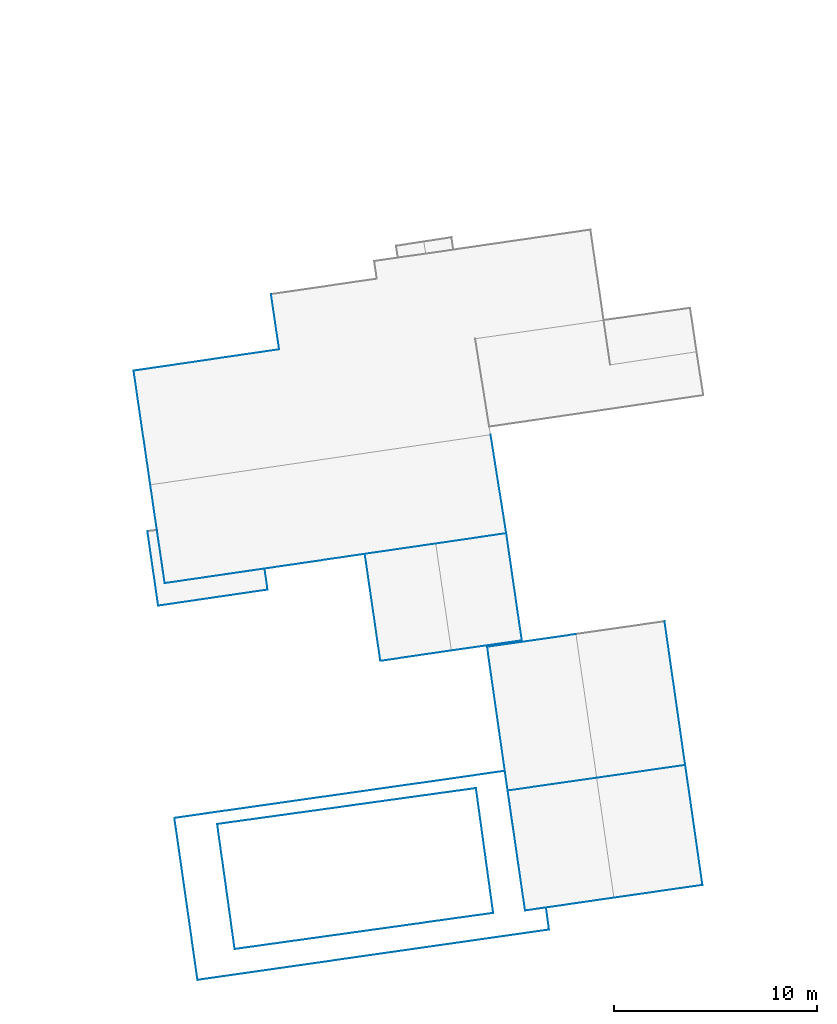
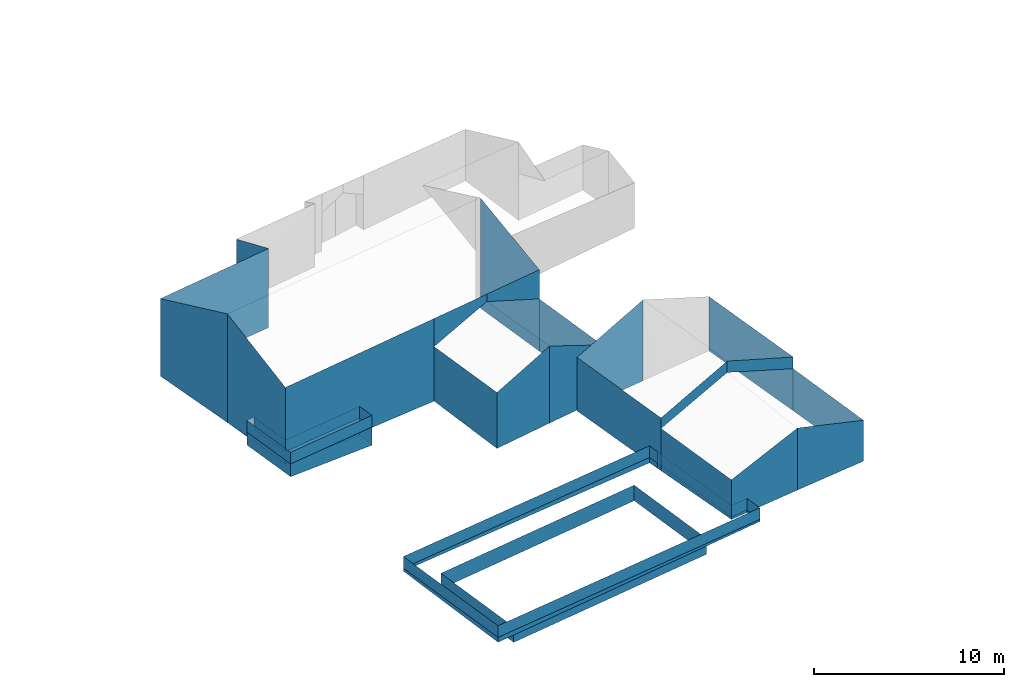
# Not in any storey, part 1 of 59: 58 walls.
"""IFC4 building model written with IfcOpenShell, lengths in metres."""

from ifc_helpers import new_model, entity, si_unit, converted_unit, origin, place, context, subcontext, project, spatial, face_set, surface_model, element, save


model = new_model("IFC4")

# Units and contexts
model_context = context("Model", 3, precision=1e-05, world=origin())
body_context = subcontext(model_context, "Body", "Model", "MODEL_VIEW")
ifc_project = project(units=[converted_unit("PLANEANGLEUNIT", "DEGREE", entity("IfcRatioMeasure", 0.0174532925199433), si_unit("PLANEANGLEUNIT", "RADIAN"), dimensions=[0, 0, 0, 0, 0, 0, 0]), si_unit("AREAUNIT", "SQUARE_METRE"), si_unit("LENGTHUNIT", "METRE")], contexts=[model_context])

# Site, building
site_placement = place(None, origin())
site = spatial("IfcSite", under=ifc_project, at=site_placement, Name="_site")
building_1_placement = place(site_placement, origin())
building_1 = spatial("IfcBuilding", under=site, at=building_1_placement, Name="_building")

# Walls
wall_1_placement = place(building_1_placement, origin())
element("IfcWall", 1, at=wall_1_placement, inside=building_1, Name="Wall", PredefinedType="NOTDEFINED", context=body_context, shape_type="SurfaceModel", body=[
    surface_model("IfcFaceBasedSurfaceModel", [(94.31, 30.33, 224.31), (90.83, 29.82, 224.275), (90.83, 29.82, 223.79), (94.31, 30.33, 222.44)], [face_set([[[0, 1, 2, 3]]])]),
])
wall_2_placement = place(building_1_placement, origin())
element("IfcWall", 2, at=wall_2_placement, inside=building_1, Name="Wall", PredefinedType="NOTDEFINED", context=body_context, shape_type="SurfaceModel", body=[
    surface_model("IfcFaceBasedSurfaceModel", [(90.83, 29.82, 224.275), (87.34, 29.311, 224.24), (87.34, 29.311, 222.44), (90.83, 29.82, 223.79)], [face_set([[[0, 1, 2, 3]]])]),
])
wall_3_placement = place(building_1_placement, origin())
element("IfcWall", 3, at=wall_3_placement, inside=building_1, Name="Wall", PredefinedType="NOTDEFINED", context=body_context, shape_type="SurfaceModel", body=[
    surface_model("IfcFaceBasedSurfaceModel", [(77.48, 27.869, 224.14), (76.77, 32.721, 226.17), (76.77, 32.721, 219.19), (77.48, 27.869, 219.2)], [face_set([[[0, 1, 2, 3]]])]),
])
wall_4_placement = place(building_1_placement, origin())
element("IfcWall", 4, at=wall_4_placement, inside=building_1, Name="Wall", PredefinedType="NOTDEFINED", context=body_context, shape_type="SurfaceModel", body=[
    surface_model("IfcFaceBasedSurfaceModel", [(93.54, 35.189, 226.25), (94.31, 30.33, 224.31), (94.31, 30.33, 219.084), (93.54, 35.189, 219.165)], [face_set([[[0, 1, 2, 3]]])]),
])
wall_5_placement = place(building_1_placement, origin())
element("IfcWall", 5, at=wall_5_placement, inside=building_1, Name="Wall", PredefinedType="NOTDEFINED", context=body_context, shape_type="SurfaceModel", body=[
    surface_model("IfcFaceBasedSurfaceModel", [(76.77, 32.721, 226.17), (75.95, 38.34, 224.03), (75.95, 38.34, 219.047), (76.77, 32.721, 219.19)], [face_set([[[0, 1, 2, 3]]])]),
])
wall_6_placement = place(building_1_placement, origin())
element("IfcWall", 6, at=wall_6_placement, inside=building_1, Name="Wall", PredefinedType="NOTDEFINED", context=body_context, shape_type="SurfaceModel", body=[
    surface_model("IfcFaceBasedSurfaceModel", [(87.34, 29.311, 224.24), (77.48, 27.869, 224.14), (77.48, 27.869, 219.2), (87.34, 29.311, 218.94)], [face_set([[[0, 1, 2, 3]]])]),
])
wall_7_placement = place(building_1_placement, origin())
element("IfcWall", 7, at=wall_7_placement, inside=building_1, Name="Wall", PredefinedType="NOTDEFINED", context=body_context, shape_type="SurfaceModel", body=[
    surface_model("IfcFaceBasedSurfaceModel", [(83.12, 39.391, 224.1), (82.72, 42.109, 223.19), (82.72, 42.109, 219.032), (83.12, 39.391, 219.017)], [face_set([[[0, 1, 2, 3]]])]),
])
wall_8_placement = place(building_1_placement, origin())
element("IfcWall", 8, at=wall_8_placement, inside=building_1, Name="Wall", PredefinedType="NOTDEFINED", context=body_context, shape_type="SurfaceModel", body=[
    surface_model("IfcFaceBasedSurfaceModel", [(75.95, 38.34, 224.03), (83.12, 39.391, 224.1), (83.12, 39.391, 219.017), (75.95, 38.34, 219.047)], [face_set([[[0, 1, 2, 3]]])]),
])
wall_9_placement = place(building_1_placement, origin())
element("IfcWall", 9, at=wall_9_placement, inside=building_1, Name="Wall", PredefinedType="NOTDEFINED", context=body_context, shape_type="SurfaceModel", body=[
    surface_model("IfcFaceBasedSurfaceModel", [(95.08, 25.051, 222.42), (91.6, 24.551, 223.87), (91.6, 24.551, 218.924), (95.08, 25.051, 219.0)], [face_set([[[0, 1, 2, 3]]])]),
])
wall_10_placement = place(building_1_placement, origin())
element("IfcWall", 10, at=wall_10_placement, inside=building_1, Name="Wall", PredefinedType="NOTDEFINED", context=body_context, shape_type="SurfaceModel", body=[
    surface_model("IfcFaceBasedSurfaceModel", [(91.6, 24.551, 223.87), (88.11, 24.039, 222.42), (88.11, 24.039, 218.826), (91.6, 24.551, 218.924)], [face_set([[[0, 1, 2, 3]]])]),
])
wall_11_placement = place(building_1_placement, origin())
element("IfcWall", 11, at=wall_11_placement, inside=building_1, Name="Wall", PredefinedType="NOTDEFINED", context=body_context, shape_type="SurfaceModel", body=[
    surface_model("IfcFaceBasedSurfaceModel", [(94.31, 30.33, 222.44), (95.08, 25.051, 222.42), (95.08, 25.051, 219.0), (94.31, 30.33, 219.084)], [face_set([[[0, 1, 2, 3]]])]),
])
wall_12_placement = place(building_1_placement, origin())
element("IfcWall", 12, at=wall_12_placement, inside=building_1, Name="Wall", PredefinedType="NOTDEFINED", context=body_context, shape_type="SurfaceModel", body=[
    surface_model("IfcFaceBasedSurfaceModel", [(88.11, 24.039, 222.42), (87.34, 29.311, 222.44), (87.34, 29.311, 218.94), (88.11, 24.039, 218.826)], [face_set([[[0, 1, 2, 3]]])]),
])
wall_13_placement = place(building_1_placement, origin())
element("IfcWall", 13, at=wall_13_placement, inside=building_1, Name="Wall", PredefinedType="NOTDEFINED", context=body_context, shape_type="SurfaceModel", body=[
    surface_model("IfcFaceBasedSurfaceModel", [(77.48, 27.869, 220.02), (82.4, 28.59, 220.02), (82.4, 28.59, 220.77), (77.48, 27.869, 220.77)], [face_set([[[0, 1, 2, 3]]])]),
])
wall_14_placement = place(building_1_placement, origin())
element("IfcWall", 14, at=wall_14_placement, inside=building_1, Name="Wall", PredefinedType="NOTDEFINED", context=body_context, shape_type="SurfaceModel", body=[
    surface_model("IfcFaceBasedSurfaceModel", [(77.1, 30.49, 220.02), (77.48, 27.869, 220.02), (77.48, 27.869, 220.77), (77.1, 30.49, 220.77)], [face_set([[[0, 1, 2, 3]]])]),
])
wall_15_placement = place(building_1_placement, origin())
element("IfcWall", 15, at=wall_15_placement, inside=building_1, Name="Wall", PredefinedType="NOTDEFINED", context=body_context, shape_type="SurfaceModel", body=[
    surface_model("IfcFaceBasedSurfaceModel", [(77.16, 26.76, 220.02), (76.63, 30.43, 220.02), (76.63, 30.43, 220.77), (77.16, 26.76, 220.77)], [face_set([[[0, 1, 2, 3]]])]),
])
wall_16_placement = place(building_1_placement, origin())
element("IfcWall", 16, at=wall_16_placement, inside=building_1, Name="Wall", PredefinedType="NOTDEFINED", context=body_context, shape_type="SurfaceModel", body=[
    surface_model("IfcFaceBasedSurfaceModel", [(82.55, 27.551, 220.02), (77.16, 26.76, 220.02), (77.16, 26.76, 220.77), (82.55, 27.551, 220.77)], [face_set([[[0, 1, 2, 3]]])]),
])
wall_17_placement = place(building_1_placement, origin())
element("IfcWall", 17, at=wall_17_placement, inside=building_1, Name="Wall", PredefinedType="NOTDEFINED", context=body_context, shape_type="SurfaceModel", body=[
    surface_model("IfcFaceBasedSurfaceModel", [(82.4, 28.59, 220.02), (82.55, 27.551, 220.02), (82.55, 27.551, 220.77), (82.4, 28.59, 220.77)], [face_set([[[0, 1, 2, 3]]])]),
])
wall_18_placement = place(building_1_placement, origin())
element("IfcWall", 18, at=wall_18_placement, inside=building_1, Name="Wall", PredefinedType="NOTDEFINED", context=body_context, shape_type="SurfaceModel", body=[
    surface_model("IfcFaceBasedSurfaceModel", [(77.48, 27.869, 220.02), (82.4, 28.59, 220.02), (82.4, 28.59, 220.77), (77.48, 27.869, 220.77)], [face_set([[[0, 1, 2, 3]]])]),
])
wall_19_placement = place(building_1_placement, origin())
element("IfcWall", 19, at=wall_19_placement, inside=building_1, Name="Wall", PredefinedType="NOTDEFINED", context=body_context, shape_type="SurfaceModel", body=[
    surface_model("IfcFaceBasedSurfaceModel", [(77.1, 30.49, 220.02), (77.48, 27.869, 220.02), (77.48, 27.869, 220.77), (77.1, 30.49, 220.77)], [face_set([[[0, 1, 2, 3]]])]),
])
wall_20_placement = place(building_1_placement, origin())
element("IfcWall", 20, at=wall_20_placement, inside=building_1, Name="Wall", PredefinedType="NOTDEFINED", context=body_context, shape_type="SurfaceModel", body=[
    surface_model("IfcFaceBasedSurfaceModel", [(77.16, 26.76, 220.02), (76.63, 30.43, 220.02), (76.63, 30.43, 220.77), (77.16, 26.76, 220.77)], [face_set([[[0, 1, 2, 3]]])]),
])
wall_21_placement = place(building_1_placement, origin())
element("IfcWall", 21, at=wall_21_placement, inside=building_1, Name="Wall", PredefinedType="NOTDEFINED", context=body_context, shape_type="SurfaceModel", body=[
    surface_model("IfcFaceBasedSurfaceModel", [(82.55, 27.551, 220.02), (77.16, 26.76, 220.02), (77.16, 26.76, 220.77), (82.55, 27.551, 220.77)], [face_set([[[0, 1, 2, 3]]])]),
])
wall_22_placement = place(building_1_placement, origin())
element("IfcWall", 22, at=wall_22_placement, inside=building_1, Name="Wall", PredefinedType="NOTDEFINED", context=body_context, shape_type="SurfaceModel", body=[
    surface_model("IfcFaceBasedSurfaceModel", [(82.4, 28.59, 220.02), (82.55, 27.551, 220.02), (82.55, 27.551, 220.77), (82.4, 28.59, 220.77)], [face_set([[[0, 1, 2, 3]]])]),
])
wall_23_placement = place(building_1_placement, origin())
element("IfcWall", 23, at=wall_23_placement, inside=building_1, Name="Wall", PredefinedType="NOTDEFINED", context=body_context, shape_type="SurfaceModel", body=[
    surface_model("IfcFaceBasedSurfaceModel", [(77.1, 30.49, 220.02), (77.48, 27.869, 220.02), (77.48, 27.869, 219.2), (77.1, 30.49, 219.222)], [face_set([[[0, 1, 2, 3]]])]),
])
wall_24_placement = place(building_1_placement, origin())
element("IfcWall", 24, at=wall_24_placement, inside=building_1, Name="Wall", PredefinedType="NOTDEFINED", context=body_context, shape_type="SurfaceModel", body=[
    surface_model("IfcFaceBasedSurfaceModel", [(77.16, 26.76, 220.02), (76.63, 30.43, 220.02), (76.63, 30.43, 219.191), (77.16, 26.76, 219.196)], [face_set([[[0, 1, 2, 3]]])]),
])
wall_25_placement = place(building_1_placement, origin())
element("IfcWall", 25, at=wall_25_placement, inside=building_1, Name="Wall", PredefinedType="NOTDEFINED", context=body_context, shape_type="SurfaceModel", body=[
    surface_model("IfcFaceBasedSurfaceModel", [(77.48, 27.869, 220.02), (82.4, 28.59, 220.02), (82.4, 28.59, 218.903), (77.48, 27.869, 219.2)], [face_set([[[0, 1, 2, 3]]])]),
])
wall_26_placement = place(building_1_placement, origin())
element("IfcWall", 26, at=wall_26_placement, inside=building_1, Name="Wall", PredefinedType="NOTDEFINED", context=body_context, shape_type="SurfaceModel", body=[
    surface_model("IfcFaceBasedSurfaceModel", [(82.55, 27.551, 220.02), (77.16, 26.76, 220.02), (77.16, 26.76, 219.196), (82.55, 27.551, 218.855)], [face_set([[[0, 1, 2, 3]]])]),
])
wall_27_placement = place(building_1_placement, origin())
element("IfcWall", 27, at=wall_27_placement, inside=building_1, Name="Wall", PredefinedType="NOTDEFINED", context=body_context, shape_type="SurfaceModel", body=[
    surface_model("IfcFaceBasedSurfaceModel", [(82.4, 28.59, 220.02), (82.55, 27.551, 220.02), (82.55, 27.551, 218.855), (82.4, 28.59, 218.903)], [face_set([[[0, 1, 2, 3]]])]),
])

# Building
building_2_placement = place(site_placement, origin())
building_2 = spatial("IfcBuilding", under=site, at=building_2_placement, Name="_building")

# Walls
wall_28_placement = place(building_2_placement, origin())
element("IfcWall", 28, at=wall_28_placement, inside=building_2, Name="Wall", PredefinedType="NOTDEFINED", context=body_context, shape_type="SurfaceModel", body=[
    surface_model("IfcFaceBasedSurfaceModel", [(92.82, 17.77, 218.63), (93.67, 11.619, 218.63), (93.67, 11.619, 217.63), (92.82, 17.77, 217.63)], [face_set([[[0, 1, 2, 3]]])]),
])
wall_29_placement = place(building_2_placement, origin())
element("IfcWall", 29, at=wall_29_placement, inside=building_2, Name="Wall", PredefinedType="NOTDEFINED", context=body_context, shape_type="SurfaceModel", body=[
    surface_model("IfcFaceBasedSurfaceModel", [(80.07, 16.0, 218.51), (92.82, 17.77, 218.63), (92.82, 17.77, 217.63), (80.07, 16.0, 217.51)], [face_set([[[0, 1, 2, 3]]])]),
])
wall_30_placement = place(building_2_placement, origin())
element("IfcWall", 30, at=wall_30_placement, inside=building_2, Name="Wall", PredefinedType="NOTDEFINED", context=body_context, shape_type="SurfaceModel", body=[
    surface_model("IfcFaceBasedSurfaceModel", [(93.67, 11.619, 218.63), (80.93, 9.84, 218.51), (80.93, 9.84, 217.51), (93.67, 11.619, 217.63)], [face_set([[[0, 1, 2, 3]]])]),
])
wall_31_placement = place(building_2_placement, origin())
element("IfcWall", 31, at=wall_31_placement, inside=building_2, Name="Wall", PredefinedType="NOTDEFINED", context=body_context, shape_type="SurfaceModel", body=[
    surface_model("IfcFaceBasedSurfaceModel", [(80.93, 9.84, 218.51), (80.07, 16.0, 218.51), (80.07, 16.0, 217.51), (80.93, 9.84, 217.51)], [face_set([[[0, 1, 2, 3]]])]),
])

# Building
building_3_placement = place(site_placement, origin())
building_3 = spatial("IfcBuilding", under=site, at=building_3_placement, Name="_building")

# Walls
wall_32_placement = place(building_3_placement, origin())
element("IfcWall", 32, at=wall_32_placement, inside=building_3, Name="Wall", PredefinedType="NOTDEFINED", context=body_context, shape_type="SurfaceModel", body=[
    surface_model("IfcFaceBasedSurfaceModel", [(103.13, 18.91, 222.55), (98.76, 18.279, 224.2), (98.76, 18.279, 223.47), (103.13, 18.91, 221.8)], [face_set([[[0, 1, 2, 3]]])]),
])
wall_33_placement = place(building_3_placement, origin())
element("IfcWall", 33, at=wall_33_placement, inside=building_3, Name="Wall", PredefinedType="NOTDEFINED", context=body_context, shape_type="SurfaceModel", body=[
    surface_model("IfcFaceBasedSurfaceModel", [(98.76, 18.279, 224.2), (94.38, 17.65, 222.47), (94.38, 17.65, 221.79), (98.76, 18.279, 223.47)], [face_set([[[0, 1, 2, 3]]])]),
])
wall_34_placement = place(building_3_placement, origin())
element("IfcWall", 34, at=wall_34_placement, inside=building_3, Name="Wall", PredefinedType="NOTDEFINED", context=body_context, shape_type="SurfaceModel", body=[
    surface_model("IfcFaceBasedSurfaceModel", [(93.37, 24.73, 222.41), (97.74, 25.359, 224.2), (97.74, 25.359, 219.0), (93.37, 24.73, 218.979)], [face_set([[[0, 1, 2, 3]]])]),
])
wall_35_placement = place(building_3_placement, origin())
element("IfcWall", 35, at=wall_35_placement, inside=building_3, Name="Wall", PredefinedType="NOTDEFINED", context=body_context, shape_type="SurfaceModel", body=[
    surface_model("IfcFaceBasedSurfaceModel", [(99.61, 12.369, 223.19), (95.24, 11.74, 221.78), (95.24, 11.74, 219.236), (99.61, 12.369, 219.209)], [face_set([[[0, 1, 2, 3]]])]),
])
wall_36_placement = place(building_3_placement, origin())
element("IfcWall", 36, at=wall_36_placement, inside=building_3, Name="Wall", PredefinedType="NOTDEFINED", context=body_context, shape_type="SurfaceModel", body=[
    surface_model("IfcFaceBasedSurfaceModel", [(103.98, 13.0, 221.78), (99.61, 12.369, 223.19), (99.61, 12.369, 219.209), (103.98, 13.0, 219.153)], [face_set([[[0, 1, 2, 3]]])]),
])
wall_37_placement = place(building_3_placement, origin())
element("IfcWall", 37, at=wall_37_placement, inside=building_3, Name="Wall", PredefinedType="NOTDEFINED", context=body_context, shape_type="SurfaceModel", body=[
    surface_model("IfcFaceBasedSurfaceModel", [(102.11, 25.99, 222.49), (103.13, 18.91, 222.55), (103.13, 18.91, 219.09), (102.11, 25.99, 219.003)], [face_set([[[0, 1, 2, 3]]])]),
])
wall_38_placement = place(building_3_placement, origin())
element("IfcWall", 38, at=wall_38_placement, inside=building_3, Name="Wall", PredefinedType="NOTDEFINED", context=body_context, shape_type="SurfaceModel", body=[
    surface_model("IfcFaceBasedSurfaceModel", [(94.38, 17.65, 222.47), (93.37, 24.73, 222.41), (93.37, 24.73, 218.979), (94.38, 17.65, 219.078)], [face_set([[[0, 1, 2, 3]]])]),
])
wall_39_placement = place(building_3_placement, origin())
element("IfcWall", 39, at=wall_39_placement, inside=building_3, Name="Wall", PredefinedType="NOTDEFINED", context=body_context, shape_type="SurfaceModel", body=[
    surface_model("IfcFaceBasedSurfaceModel", [(103.13, 18.91, 221.8), (103.98, 13.0, 221.78), (103.98, 13.0, 219.153), (103.13, 18.91, 219.09)], [face_set([[[0, 1, 2, 3]]])]),
])
wall_40_placement = place(building_3_placement, origin())
element("IfcWall", 40, at=wall_40_placement, inside=building_3, Name="Wall", PredefinedType="NOTDEFINED", context=body_context, shape_type="SurfaceModel", body=[
    surface_model("IfcFaceBasedSurfaceModel", [(95.24, 11.74, 221.78), (94.38, 17.65, 221.79), (94.38, 17.65, 219.078), (95.24, 11.74, 219.236)], [face_set([[[0, 1, 2, 3]]])]),
])
wall_41_placement = place(building_3_placement, origin())
element("IfcWall", 41, at=wall_41_placement, inside=building_3, Name="Wall", PredefinedType="NOTDEFINED", context=body_context, shape_type="SurfaceModel", body=[
    surface_model("IfcFaceBasedSurfaceModel", [(77.96, 16.301, 219.39), (94.24, 18.619, 219.39), (94.24, 18.619, 220.14), (77.96, 16.301, 220.14)], [face_set([[[0, 1, 2, 3]]])]),
])
wall_42_placement = place(building_3_placement, origin())
element("IfcWall", 42, at=wall_42_placement, inside=building_3, Name="Wall", PredefinedType="NOTDEFINED", context=body_context, shape_type="SurfaceModel", body=[
    surface_model("IfcFaceBasedSurfaceModel", [(79.1, 8.32, 219.39), (77.96, 16.301, 219.39), (77.96, 16.301, 220.14), (79.1, 8.32, 220.14)], [face_set([[[0, 1, 2, 3]]])]),
])
wall_43_placement = place(building_3_placement, origin())
element("IfcWall", 43, at=wall_43_placement, inside=building_3, Name="Wall", PredefinedType="NOTDEFINED", context=body_context, shape_type="SurfaceModel", body=[
    surface_model("IfcFaceBasedSurfaceModel", [(96.42, 10.801, 219.39), (79.1, 8.32, 219.39), (79.1, 8.32, 220.14), (96.42, 10.801, 220.14)], [face_set([[[0, 1, 2, 3]]])]),
])
wall_44_placement = place(building_3_placement, origin())
element("IfcWall", 44, at=wall_44_placement, inside=building_3, Name="Wall", PredefinedType="NOTDEFINED", context=body_context, shape_type="SurfaceModel", body=[
    surface_model("IfcFaceBasedSurfaceModel", [(96.27, 11.891, 219.39), (96.42, 10.801, 219.39), (96.42, 10.801, 220.14), (96.27, 11.891, 220.14)], [face_set([[[0, 1, 2, 3]]])]),
])
wall_45_placement = place(building_3_placement, origin())
element("IfcWall", 45, at=wall_45_placement, inside=building_3, Name="Wall", PredefinedType="NOTDEFINED", context=body_context, shape_type="SurfaceModel", body=[
    surface_model("IfcFaceBasedSurfaceModel", [(95.24, 11.74, 219.39), (96.27, 11.891, 219.39), (96.27, 11.891, 220.14), (95.24, 11.74, 220.14)], [face_set([[[0, 1, 2, 3]]])]),
])
wall_46_placement = place(building_3_placement, origin())
element("IfcWall", 46, at=wall_46_placement, inside=building_3, Name="Wall", PredefinedType="NOTDEFINED", context=body_context, shape_type="SurfaceModel", body=[
    surface_model("IfcFaceBasedSurfaceModel", [(94.24, 18.619, 219.39), (95.24, 11.74, 219.39), (95.24, 11.74, 220.14), (94.24, 18.619, 220.14)], [face_set([[[0, 1, 2, 3]]])]),
])
wall_47_placement = place(building_3_placement, origin())
element("IfcWall", 47, at=wall_47_placement, inside=building_3, Name="Wall", PredefinedType="NOTDEFINED", context=body_context, shape_type="SurfaceModel", body=[
    surface_model("IfcFaceBasedSurfaceModel", [(77.96, 16.301, 219.39), (94.24, 18.619, 219.39), (94.24, 18.619, 220.14), (77.96, 16.301, 220.14)], [face_set([[[0, 1, 2, 3]]])]),
])
wall_48_placement = place(building_3_placement, origin())
element("IfcWall", 48, at=wall_48_placement, inside=building_3, Name="Wall", PredefinedType="NOTDEFINED", context=body_context, shape_type="SurfaceModel", body=[
    surface_model("IfcFaceBasedSurfaceModel", [(79.1, 8.32, 219.39), (77.96, 16.301, 219.39), (77.96, 16.301, 220.14), (79.1, 8.32, 220.14)], [face_set([[[0, 1, 2, 3]]])]),
])
wall_49_placement = place(building_3_placement, origin())
element("IfcWall", 49, at=wall_49_placement, inside=building_3, Name="Wall", PredefinedType="NOTDEFINED", context=body_context, shape_type="SurfaceModel", body=[
    surface_model("IfcFaceBasedSurfaceModel", [(96.42, 10.801, 219.39), (79.1, 8.32, 219.39), (79.1, 8.32, 220.14), (96.42, 10.801, 220.14)], [face_set([[[0, 1, 2, 3]]])]),
])
wall_50_placement = place(building_3_placement, origin())
element("IfcWall", 50, at=wall_50_placement, inside=building_3, Name="Wall", PredefinedType="NOTDEFINED", context=body_context, shape_type="SurfaceModel", body=[
    surface_model("IfcFaceBasedSurfaceModel", [(96.27, 11.891, 219.39), (96.42, 10.801, 219.39), (96.42, 10.801, 220.14), (96.27, 11.891, 220.14)], [face_set([[[0, 1, 2, 3]]])]),
])
wall_51_placement = place(building_3_placement, origin())
element("IfcWall", 51, at=wall_51_placement, inside=building_3, Name="Wall", PredefinedType="NOTDEFINED", context=body_context, shape_type="SurfaceModel", body=[
    surface_model("IfcFaceBasedSurfaceModel", [(95.24, 11.74, 219.39), (96.27, 11.891, 219.39), (96.27, 11.891, 220.14), (95.24, 11.74, 220.14)], [face_set([[[0, 1, 2, 3]]])]),
])
wall_52_placement = place(building_3_placement, origin())
element("IfcWall", 52, at=wall_52_placement, inside=building_3, Name="Wall", PredefinedType="NOTDEFINED", context=body_context, shape_type="SurfaceModel", body=[
    surface_model("IfcFaceBasedSurfaceModel", [(94.24, 18.619, 219.39), (95.24, 11.74, 219.39), (95.24, 11.74, 220.14), (94.24, 18.619, 220.14)], [face_set([[[0, 1, 2, 3]]])]),
])
wall_53_placement = place(building_3_placement, origin())
element("IfcWall", 53, at=wall_53_placement, inside=building_3, Name="Wall", PredefinedType="NOTDEFINED", context=body_context, shape_type="SurfaceModel", body=[
    surface_model("IfcFaceBasedSurfaceModel", [(96.27, 11.891, 219.39), (96.42, 10.801, 219.39), (96.42, 10.801, 219.26), (96.27, 11.891, 219.243)], [face_set([[[0, 1, 2, 3]]])]),
])
wall_54_placement = place(building_3_placement, origin())
element("IfcWall", 54, at=wall_54_placement, inside=building_3, Name="Wall", PredefinedType="NOTDEFINED", context=body_context, shape_type="SurfaceModel", body=[
    surface_model("IfcFaceBasedSurfaceModel", [(95.24, 11.74, 219.39), (96.27, 11.891, 219.39), (96.27, 11.891, 219.243), (95.24, 11.74, 219.236)], [face_set([[[0, 1, 2, 3]]])]),
])
wall_55_placement = place(building_3_placement, origin())
element("IfcWall", 55, at=wall_55_placement, inside=building_3, Name="Wall", PredefinedType="NOTDEFINED", context=body_context, shape_type="SurfaceModel", body=[
    surface_model("IfcFaceBasedSurfaceModel", [(79.1, 8.32, 219.39), (77.96, 16.301, 219.39), (77.96, 16.301, 219.201), (79.1, 8.32, 219.076)], [face_set([[[0, 1, 2, 3]]])]),
])
wall_56_placement = place(building_3_placement, origin())
element("IfcWall", 56, at=wall_56_placement, inside=building_3, Name="Wall", PredefinedType="NOTDEFINED", context=body_context, shape_type="SurfaceModel", body=[
    surface_model("IfcFaceBasedSurfaceModel", [(96.42, 10.801, 219.39), (79.1, 8.32, 219.39), (79.1, 8.32, 219.076), (96.42, 10.801, 219.26)], [face_set([[[0, 1, 2, 3]]])]),
])
wall_57_placement = place(building_3_placement, origin())
element("IfcWall", 57, at=wall_57_placement, inside=building_3, Name="Wall", PredefinedType="NOTDEFINED", context=body_context, shape_type="SurfaceModel", body=[
    surface_model("IfcFaceBasedSurfaceModel", [(77.96, 16.301, 219.39), (94.24, 18.619, 219.39), (94.24, 18.619, 219.05), (77.96, 16.301, 219.201)], [face_set([[[0, 1, 2, 3]]])]),
])
wall_58_placement = place(building_3_placement, origin())
element("IfcWall", 58, at=wall_58_placement, inside=building_3, Name="Wall", PredefinedType="NOTDEFINED", context=body_context, shape_type="SurfaceModel", body=[
    surface_model("IfcFaceBasedSurfaceModel", [(94.24, 18.619, 219.39), (95.24, 11.74, 219.39), (95.24, 11.74, 219.236), (94.24, 18.619, 219.05)], [face_set([[[0, 1, 2, 3]]])]),
])

save(model, "model.ifc")
